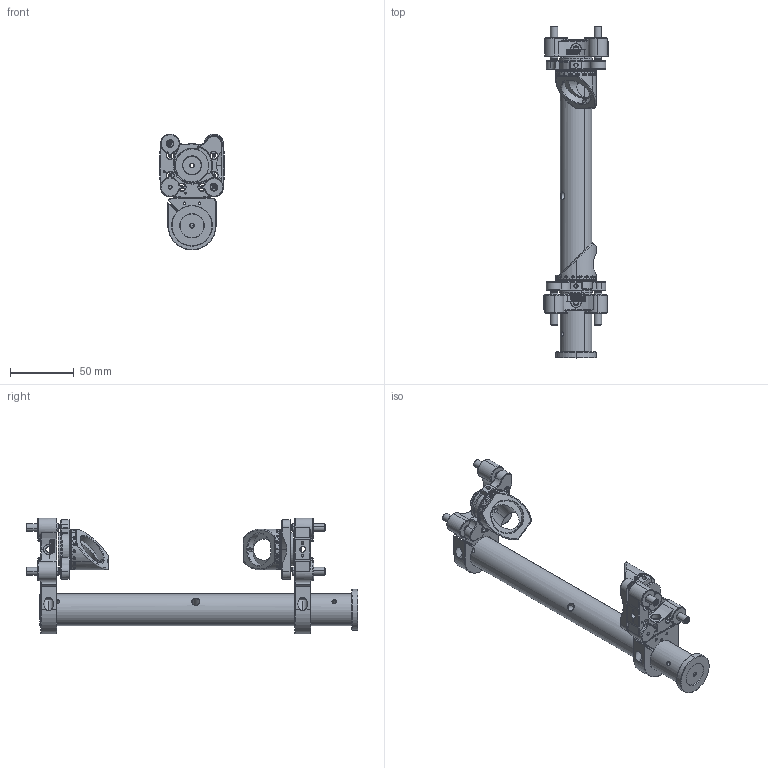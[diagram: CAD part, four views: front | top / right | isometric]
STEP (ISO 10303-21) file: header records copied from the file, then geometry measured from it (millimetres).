
FILE_DESCRIPTION (( 'STEP AP214' ), '1' );
FILE_NAME ('真空爬高架带旋钮.STEP', '2026-10-20T08:47:29', ( '' ), ( '' ), 'SwSTEP 2.0', 'SolidWorks 2024', '' );
FILE_SCHEMA (( 'AUTOMOTIVE_DESIGN' ));
Length unit declared in the file: millimetre
Products named in the file (1): 真空爬高架带旋钮
Bounding box: 50.8 x 260.72 x 91.05 mm (x, y, z)
Surface area: 63715.4 mm2 (no closed solid volume)
Topology: 0 solids, 40 shells, 1187 faces, 7272 edges, 5787 vertices
Faces by surface type: cylinder 419, plane 411, cone 270, torus 39, bspline 36, sphere 12
Entity records: 112736 total; most frequent: CARTESIAN_POINT 65581, ORIENTED_EDGE 10667, EDGE_CURVE 7258, DIRECTION 6712, VERTEX_POINT 5787, B_SPLINE_CURVE_WITH_KNOTS 4232, AXIS2_PLACEMENT_3D 2552, LINE 1608
